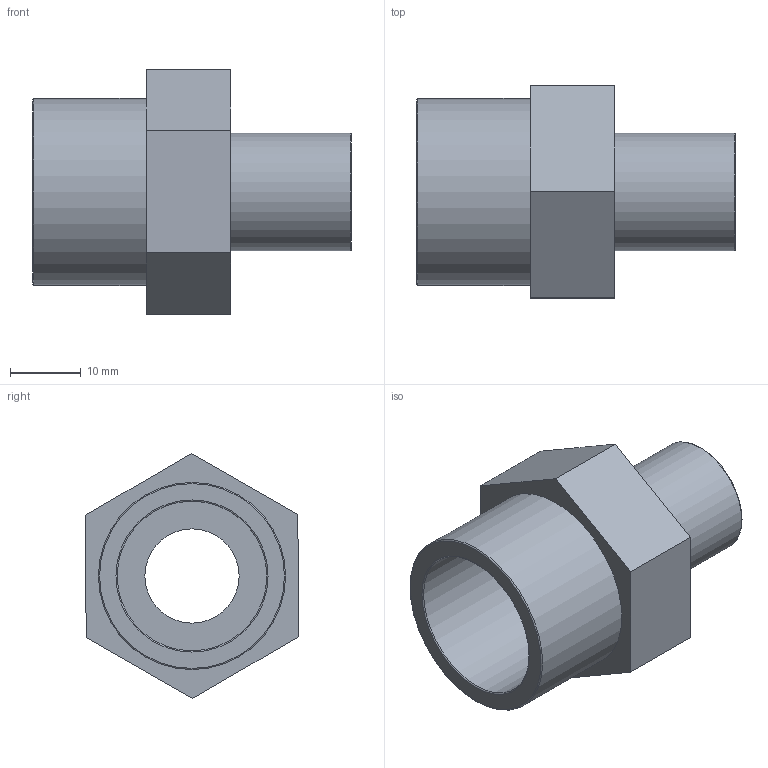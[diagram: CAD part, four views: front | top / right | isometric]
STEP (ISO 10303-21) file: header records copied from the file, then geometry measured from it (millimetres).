
FILE_DESCRIPTION(/* description */ ('PLASSON THR. REDUCING NIPPLE 3/4"-3/8" PVC'),/* implementation_level */ '2;1');
FILE_NAME(/* name */ 'C:\Dropbox\KIMPROJECTS-Inventor\99-16-3568-Processing\PVC Catalog 2017\051601\051601007003.ipt.stp',/* time_stamp */ '2017-12-07T16:00:50+02:00',/* author */ ('KIM'),/* organization */ (''),/* preprocessor_version */ 'ST-DEVELOPER v15.6',/* originating_system */ 'Autodesk Inventor 2015',/* authorisation */ '');
FILE_SCHEMA (('AUTOMOTIVE_DESIGN { 1 0 10303 214 3 1 1 }'));
Length unit declared in the file: millimetre
Products named in the file (1): 051601007003
Bounding box: 45 x 30.06 x 34.64 mm (x, y, z)
Volume: 10352.2 mm3; surface area: 7217.4 mm2
Topology: 1 solids, 1 shells, 19 faces, 38 edges, 24 vertices
Faces by surface type: plane 11, torus 4, cylinder 4
Full cylindrical faces by diameter (mm): 13.33 x1, 16.662 x1, 21.153 x1, 26.441 x1
Entity records: 480 total; most frequent: DIRECTION 82, CARTESIAN_POINT 74, ORIENTED_EDGE 60, EDGE_LOOP 32, AXIS2_PLACEMENT_3D 32, EDGE_CURVE 30, VERTEX_POINT 24, FACE_OUTER_BOUND 19
